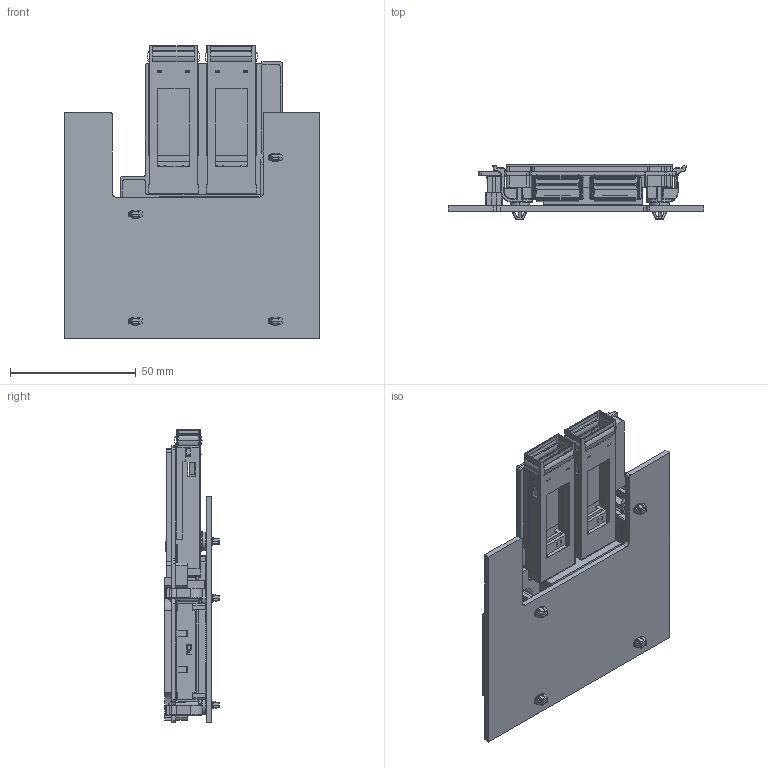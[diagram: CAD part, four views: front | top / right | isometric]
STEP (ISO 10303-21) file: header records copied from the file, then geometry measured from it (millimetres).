
FILE_DESCRIPTION((''),'2;1');
FILE_NAME('OCP-MZ-2_0-BD-ASSY_1X4SFP_8MM_ASM','2015-10-23T',('95030616'),(''),'PRO/ENGINEER BY PARAMETRIC TECHNOLOGY CORPORATION, 2013040','PRO/ENGINEER BY PARAMETRIC TECHNOLOGY CORPORATION, 2013040','');
FILE_SCHEMA(('AUTOMOTIVE_DESIGN { 1 0 10303 214 1 1 1 1 }'));
Products named in the file (21): OCP-2_0-BOARD_2; F01-LED-EVERLIGHT; FCI-P61083-124X2XXX_2; FCI_61083_084402LF_LEOPARD_E1; BTM-KEEPOUT-2MM; BTM-KEEPOUT-2_9MM; TOP-KEEPOUT-4_5MM; TOP-KEEPOUT-4_5MM-3; TOP-KEEPOUT-4MM; TOP-KEEPOUT-4MM-2; TOP-KEEPOUT-11_5MM; PORTION_MB_LEOPARD_E1_FILLED; FCI_61082_082402LF_LEOPARD_E1; FCI_61082_122402LF_LEOPARD_E1; 64POS-REC2; ASSY_PORTION_MB_LEOPARD_E1_ASM__ASM; F07-MEZZ-LATCH-RIGHT-12MM; F07-MEZZ-LATCH-LEFT-12MM; M-U90-A111-1001-REVT1; M-FS1-E38-X0M0-X0-REVT1; OCP-MZ-2_0-BD-ASSY_1X4SFP_8MM_ASM
Assembly tree (27 placements, depth 3):
  OCP-MZ-2_0-BD-ASSY_1X4SFP_8MM_ASM
    OCP-2_0-BOARD_2
    F01-LED-EVERLIGHT  x4
    FCI-P61083-124X2XXX_2
    FCI_61083_084402LF_LEOPARD_E1
    BTM-KEEPOUT-2MM
    BTM-KEEPOUT-2_9MM
    TOP-KEEPOUT-4_5MM
    TOP-KEEPOUT-4_5MM-3
    TOP-KEEPOUT-4MM
    TOP-KEEPOUT-4MM-2
    TOP-KEEPOUT-11_5MM
    ASSY_PORTION_MB_LEOPARD_E1_ASM__ASM
      PORTION_MB_LEOPARD_E1_FILLED
      FCI_61082_082402LF_LEOPARD_E1
      FCI_61082_122402LF_LEOPARD_E1
      64POS-REC2
    F07-MEZZ-LATCH-RIGHT-12MM  x3
    F07-MEZZ-LATCH-LEFT-12MM
    M-U90-A111-1001-REVT1  x2
    M-FS1-E38-X0M0-X0-REVT1  x2
Bounding box: 101.72 x 21.77 x 116.55 mm (x, y, z)
Volume: 93930.3 mm3; surface area: 90187.4 mm2
Topology: 26 solids, 26 shells, 10710 faces, 30232 edges, 19246 vertices
Faces by surface type: plane 8473, cylinder 1538, bspline 390, cone 137, sphere 136, torus 36
Entity records: 327278 total; most frequent: CARTESIAN_POINT 60633, ORIENTED_EDGE 48522, DIRECTION 42081, EDGE_CURVE 24261, VECTOR 21881, LINE 21881, VERTEX_POINT 15431, PRESENTATION_STYLE_ASSIGNMENT 13092
